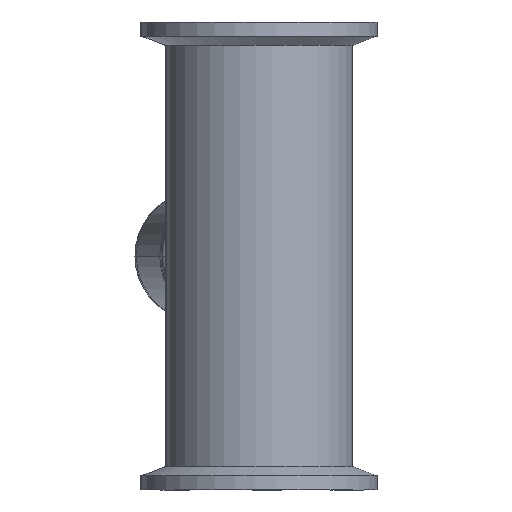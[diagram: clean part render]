
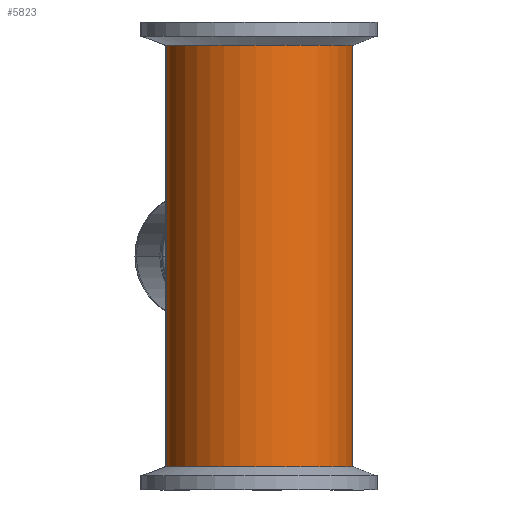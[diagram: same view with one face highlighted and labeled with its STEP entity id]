
A CAD part, front view. The second image highlights one B-rep face of the part: STEP entity #5823.
In plain terms, the highlighted cylindrical face has radius 20 mm (diameter 40 mm), a partial arc.
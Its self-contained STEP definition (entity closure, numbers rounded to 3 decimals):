
#151 = VERTEX_POINT ( 'NONE', #7861 ) ;
#286 = VECTOR ( 'NONE', #5109, 1000. ) ;
#1057 = FACE_OUTER_BOUND ( 'NONE', #2350, .T. ) ;
#1174 = EDGE_CURVE ( 'NONE', #1361, #9890, #4158, .T. ) ;
#1361 = VERTEX_POINT ( 'NONE', #3859 ) ;
#1527 = ORIENTED_EDGE ( 'NONE', *, *, #8032, .T. ) ;
#2350 = EDGE_LOOP ( 'NONE', ( #3294, #1527, #4810, #7504 ) ) ;
#3294 = ORIENTED_EDGE ( 'NONE', *, *, #7679, .F. ) ;
#3602 = DIRECTION ( 'NONE',  ( 0., 0., -1. ) ) ;
#3654 = CIRCLE ( 'NONE', #8750, 20. ) ;
#3859 = CARTESIAN_POINT ( 'NONE',  ( -20., 0., 45. ) ) ;
#4073 = CIRCLE ( 'NONE', #5391, 20. ) ;
#4158 = LINE ( 'NONE', #5059, #286 ) ;
#4703 = DIRECTION ( 'NONE',  ( 0., 0., -1. ) ) ;
#4757 = VERTEX_POINT ( 'NONE', #10376 ) ;
#4761 = CARTESIAN_POINT ( 'NONE',  ( 0., 0., 50. ) ) ;
#4810 = ORIENTED_EDGE ( 'NONE', *, *, #1174, .T. ) ;
#4881 = DIRECTION ( 'NONE',  ( -1., 0., 0. ) ) ;
#5059 = CARTESIAN_POINT ( 'NONE',  ( -20., 0., 50. ) ) ;
#5109 = DIRECTION ( 'NONE',  ( 0., 0., -1. ) ) ;
#5391 = AXIS2_PLACEMENT_3D ( 'NONE', #7609, #6491, #8450 ) ;
#5639 = CYLINDRICAL_SURFACE ( 'NONE', #10486, 20. ) ;
#5823 = ADVANCED_FACE ( 'NONE', ( #1057 ), #5639, .T. ) ;
#6491 = DIRECTION ( 'NONE',  ( 0., 0., -1. ) ) ;
#7430 = CARTESIAN_POINT ( 'NONE',  ( 0., 0., 45. ) ) ;
#7504 = ORIENTED_EDGE ( 'NONE', *, *, #11386, .F. ) ;
#7609 = CARTESIAN_POINT ( 'NONE',  ( 0., 0., -45. ) ) ;
#7677 = CARTESIAN_POINT ( 'NONE',  ( 20., 0., 50. ) ) ;
#7679 = EDGE_CURVE ( 'NONE', #4757, #151, #11233, .T. ) ;
#7861 = CARTESIAN_POINT ( 'NONE',  ( 20., 0., -45. ) ) ;
#8032 = EDGE_CURVE ( 'NONE', #4757, #1361, #3654, .T. ) ;
#8450 = DIRECTION ( 'NONE',  ( -1., 0., 0. ) ) ;
#8750 = AXIS2_PLACEMENT_3D ( 'NONE', #7430, #3602, #11026 ) ;
#9574 = DIRECTION ( 'NONE',  ( 0., 0., -1. ) ) ;
#9890 = VERTEX_POINT ( 'NONE', #10462 ) ;
#10376 = CARTESIAN_POINT ( 'NONE',  ( 20., 0., 45. ) ) ;
#10462 = CARTESIAN_POINT ( 'NONE',  ( -20., 0., -45. ) ) ;
#10486 = AXIS2_PLACEMENT_3D ( 'NONE', #4761, #4703, #4881 ) ;
#11026 = DIRECTION ( 'NONE',  ( -1., 0., 0. ) ) ;
#11184 = VECTOR ( 'NONE', #9574, 1000. ) ;
#11233 = LINE ( 'NONE', #7677, #11184 ) ;
#11386 = EDGE_CURVE ( 'NONE', #151, #9890, #4073, .T. ) ;
